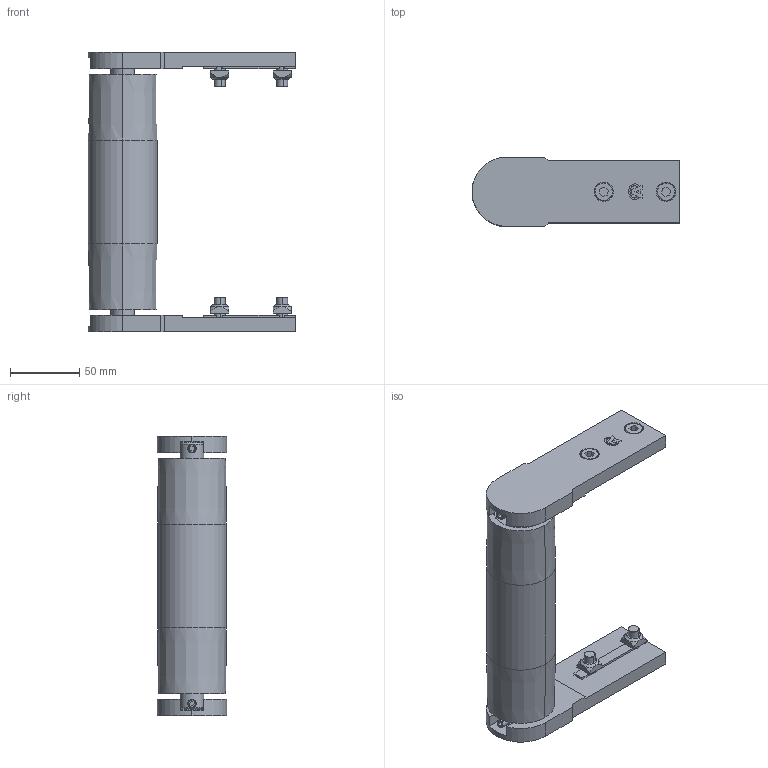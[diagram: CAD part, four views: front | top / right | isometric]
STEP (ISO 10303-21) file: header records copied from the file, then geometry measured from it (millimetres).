
FILE_DESCRIPTION (( 'STEP AP203' ), '1' );
FILE_NAME ('084.050.KIO.150.STEP', '2019-07-29T10:29:05', ( '' ), ( '' ), 'SwSTEP 2.0', 'SolidWorks 2018', '' );
FILE_SCHEMA (( 'CONFIG_CONTROL_DESIGN' ));
Length unit declared in the file: millimetre
Products named in the file (9): 084.301.000 VITI ALUSIC_084.301.003; 084.302.000 DADI ALUSIC 13x13-1_084.302.003; CUSCINETTI A SFERE INOX_6203-2RS INOX; Circlip DIN 471 - 17 x 1_Circlip DIN 471 - 17 x 1; 084.826.044; 084.826.043; 084.050.KIO.150; 084.807.014_084.807.002; GRANI A PUNTA CONICA UNI 5927 INOX_M6x40 UNI 5927 INOX
Assembly tree (18 placements, depth 2):
  084.050.KIO.150
    084.826.043
    084.826.044
    084.807.014_084.807.002  x2
    084.301.000 VITI ALUSIC_084.301.003  x4
    084.302.000 DADI ALUSIC 13x13-1_084.302.003  x4
    CUSCINETTI A SFERE INOX_6203-2RS INOX  x2
    Circlip DIN 471 - 17 x 1_Circlip DIN 471 - 17 x 1  x2
    GRANI A PUNTA CONICA UNI 5927 INOX_M6x40 UNI 5927 INOX  x2
Bounding box: 150 x 50 x 202 mm (x, y, z)
Volume: 360316.6 mm3; surface area: 114540.2 mm2
Topology: 18 solids, 18 shells, 426 faces, 1032 edges, 672 vertices
Faces by surface type: plane 180, cylinder 112, cone 48, bspline 46, torus 40
Entity records: 7624 total; most frequent: CARTESIAN_POINT 1668, DIRECTION 993, ORIENTED_EDGE 966, EDGE_CURVE 483, AXIS2_PLACEMENT_3D 379, VERTEX_POINT 314, EDGE_LOOP 235, LINE 235
